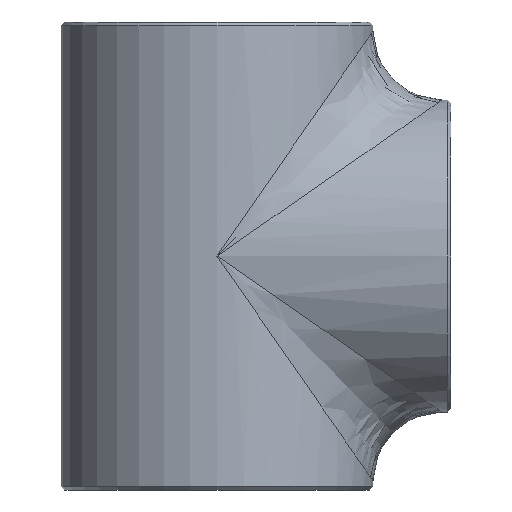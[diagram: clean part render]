
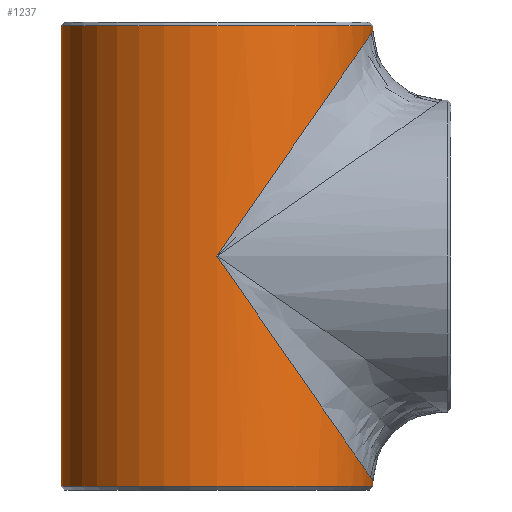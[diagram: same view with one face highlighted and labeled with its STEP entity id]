
A CAD part, front view. The second image highlights one B-rep face of the part: STEP entity #1237.
In plain terms, the highlighted cylindrical face has radius 203.2 mm (diameter 406.4 mm), a partial arc.
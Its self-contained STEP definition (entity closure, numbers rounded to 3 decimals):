
#27 =( BOUNDED_CURVE ( )  B_SPLINE_CURVE ( 3, ( #1302, #1057, #263, #1184 ),
 .UNSPECIFIED., .F., .T. ) 
 B_SPLINE_CURVE_WITH_KNOTS ( ( 4, 4 ),
 ( 1.571, 3.142 ),
 .UNSPECIFIED. ) 
 CURVE ( )  GEOMETRIC_REPRESENTATION_ITEM ( )  RATIONAL_B_SPLINE_CURVE ( ( 1., 0.805, 0.805, 1. ) ) 
 REPRESENTATION_ITEM ( '' )  );
#50 = EDGE_CURVE ( 'NONE', #456, #1212, #27, .T. ) ;
#70 = AXIS2_PLACEMENT_3D ( 'NONE', #1556, #1021, #539 ) ;
#73 = ORIENTED_EDGE ( 'NONE', *, *, #1118, .T. ) ;
#91 = VECTOR ( 'NONE', #1321, 1000. ) ;
#212 = EDGE_CURVE ( 'NONE', #1274, #923, #1089, .T. ) ;
#226 = CARTESIAN_POINT ( 'NONE',  ( 203.2, 0., 293.2 ) ) ;
#227 = EDGE_CURVE ( 'NONE', #923, #1306, #802, .T. ) ;
#236 = CARTESIAN_POINT ( 'NONE',  ( -203.2, 0., 300.07 ) ) ;
#263 = CARTESIAN_POINT ( 'NONE',  ( 203.2, -119.032, 293.2 ) ) ;
#273 = ORIENTED_EDGE ( 'NONE', *, *, #212, .T. ) ;
#293 = CARTESIAN_POINT ( 'NONE',  ( 203.2, 0., 300.07 ) ) ;
#347 = ORIENTED_EDGE ( 'NONE', *, *, #1566, .F. ) ;
#369 = CARTESIAN_POINT ( 'NONE',  ( 203.2, 0., 304.8 ) ) ;
#431 = CARTESIAN_POINT ( 'NONE',  ( 119.032, -203.2, -171.753 ) ) ;
#456 = VERTEX_POINT ( 'NONE', #540 ) ;
#487 = CARTESIAN_POINT ( 'NONE',  ( 203.2, 0., -293.2 ) ) ;
#508 = EDGE_LOOP ( 'NONE', ( #347, #273, #616, #73, #680, #1396, #1473 ) ) ;
#509 = LINE ( 'NONE', #369, #588 ) ;
#530 = VERTEX_POINT ( 'NONE', #1055 ) ;
#534 = CARTESIAN_POINT ( 'NONE',  ( 203.2, 0., -293.2 ) ) ;
#539 = DIRECTION ( 'NONE',  ( 1., 0., 0. ) ) ;
#540 = CARTESIAN_POINT ( 'NONE',  ( 0., -203.2, 0. ) ) ;
#588 = VECTOR ( 'NONE', #742, 1000. ) ;
#616 = ORIENTED_EDGE ( 'NONE', *, *, #227, .T. ) ;
#661 = CARTESIAN_POINT ( 'NONE',  ( -203.2, 0., -300.07 ) ) ;
#680 = ORIENTED_EDGE ( 'NONE', *, *, #940, .F. ) ;
#742 = DIRECTION ( 'NONE',  ( 0., 0., -1. ) ) ;
#774 = DIRECTION ( 'NONE',  ( -1., 0., 0. ) ) ;
#802 = LINE ( 'NONE', #1047, #91 ) ;
#806 = DIRECTION ( 'NONE',  ( 0., 0., -1. ) ) ;
#895 = AXIS2_PLACEMENT_3D ( 'NONE', #1144, #1509, #985 ) ;
#905 = VERTEX_POINT ( 'NONE', #487 ) ;
#923 = VERTEX_POINT ( 'NONE', #236 ) ;
#940 = EDGE_CURVE ( 'NONE', #905, #530, #509, .T. ) ;
#957 = CARTESIAN_POINT ( 'NONE',  ( 203.2, 0., 304.8 ) ) ;
#985 = DIRECTION ( 'NONE',  ( 1., 0., 0. ) ) ;
#1021 = DIRECTION ( 'NONE',  ( 0., 0., -1. ) ) ;
#1047 = CARTESIAN_POINT ( 'NONE',  ( -203.2, 0., 304.8 ) ) ;
#1055 = CARTESIAN_POINT ( 'NONE',  ( 203.2, 0., -300.07 ) ) ;
#1057 = CARTESIAN_POINT ( 'NONE',  ( 119.032, -203.2, 171.753 ) ) ;
#1063 = CARTESIAN_POINT ( 'NONE',  ( 203.2, -119.032, -293.2 ) ) ;
#1089 = CIRCLE ( 'NONE', #70, 203.2 ) ;
#1118 = EDGE_CURVE ( 'NONE', #1306, #530, #1593, .T. ) ;
#1144 = CARTESIAN_POINT ( 'NONE',  ( 0., 0., -300.07 ) ) ;
#1180 = CYLINDRICAL_SURFACE ( 'NONE', #1359, 203.2 ) ;
#1184 = CARTESIAN_POINT ( 'NONE',  ( 203.2, 0., 293.2 ) ) ;
#1188 = FACE_OUTER_BOUND ( 'NONE', #508, .T. ) ;
#1193 = LINE ( 'NONE', #957, #1537 ) ;
#1212 = VERTEX_POINT ( 'NONE', #226 ) ;
#1237 = ADVANCED_FACE ( 'NONE', ( #1188 ), #1180, .T. ) ;
#1274 = VERTEX_POINT ( 'NONE', #293 ) ;
#1297 = CARTESIAN_POINT ( 'NONE',  ( 0., 0., 304.8 ) ) ;
#1302 = CARTESIAN_POINT ( 'NONE',  ( 0., -203.2, 0. ) ) ;
#1306 = VERTEX_POINT ( 'NONE', #661 ) ;
#1321 = DIRECTION ( 'NONE',  ( 0., 0., -1. ) ) ;
#1359 = AXIS2_PLACEMENT_3D ( 'NONE', #1297, #806, #774 ) ;
#1396 = ORIENTED_EDGE ( 'NONE', *, *, #1411, .T. ) ;
#1411 = EDGE_CURVE ( 'NONE', #905, #456, #1503, .T. ) ;
#1447 = CARTESIAN_POINT ( 'NONE',  ( 0., -203.2, 0. ) ) ;
#1473 = ORIENTED_EDGE ( 'NONE', *, *, #50, .T. ) ;
#1503 =( BOUNDED_CURVE ( )  B_SPLINE_CURVE ( 3, ( #534, #1063, #431, #1447 ),
 .UNSPECIFIED., .F., .F. ) 
 B_SPLINE_CURVE_WITH_KNOTS ( ( 4, 4 ),
 ( 3.142, 4.712 ),
 .UNSPECIFIED. ) 
 CURVE ( )  GEOMETRIC_REPRESENTATION_ITEM ( )  RATIONAL_B_SPLINE_CURVE ( ( 1., 0.805, 0.805, 1. ) ) 
 REPRESENTATION_ITEM ( '' )  );
#1509 = DIRECTION ( 'NONE',  ( 0., 0., 1. ) ) ;
#1537 = VECTOR ( 'NONE', #1579, 1000. ) ;
#1556 = CARTESIAN_POINT ( 'NONE',  ( 0., 0., 300.07 ) ) ;
#1566 = EDGE_CURVE ( 'NONE', #1274, #1212, #1193, .T. ) ;
#1579 = DIRECTION ( 'NONE',  ( 0., 0., -1. ) ) ;
#1593 = CIRCLE ( 'NONE', #895, 203.2 ) ;
